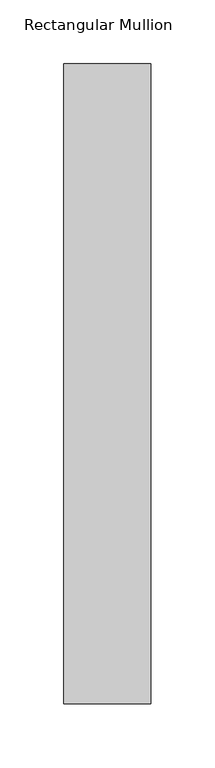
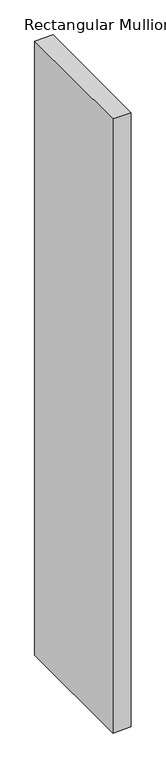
"""IFC4 building model written with IfcOpenShell, lengths in millimetres: member geometry, Rectangular Mullion : DucoSun Cubic Design louvre 500."""

from ifc_helpers import new_model, si_unit, frame, origin, place, context, project, spatial, polyline, outline, extrude, source, transform, mapped, element, save


def rectangular_mullion_e8e83654(model_context):
    return source(origin(), model_context, "Body", "SweptSolid", [
        extrude(outline(polyline([(-68.0, 500.0), (0.0, 500.0), (0.0, 0.0), (-68.0, 0.0), (-68.0, 500.0)])), frame((0.0, 0.0, -2400.0), z_axis=(0.0, 0.0, 1.0), x_axis=(1.0, 0.0, 0.0)), (0.0, 0.0, 1.0), 2400.0),
    ])


if __name__ == "__main__":
    model = new_model("IFC4")
    model_context = context("Model", 3, world=origin())
    ifc_project = project(units=[si_unit("LENGTHUNIT", "METRE", prefix="MILLI")], contexts=[model_context])
    site = spatial("IfcSite", under=ifc_project)
    building = spatial("IfcBuilding", under=site)
    placement = place(None, origin())
    rectangular_mullion_shape = rectangular_mullion_e8e83654(model_context)
    element("IfcMember", 1, ObjectType="Rectangular Mullion : DucoSun Cubic Design louvre 500", at=placement, inside=building, context=model_context, shape_type="MappedRepresentation", body=[
        mapped(rectangular_mullion_shape, transform((0.0, 0.0, 0.0), x_axis=(1.0, 0.0, 0.0), y_axis=(0.0, 1.0, 0.0), z_axis=(0.0, 0.0, 1.0))),
    ])
    save(model, "model.ifc")
